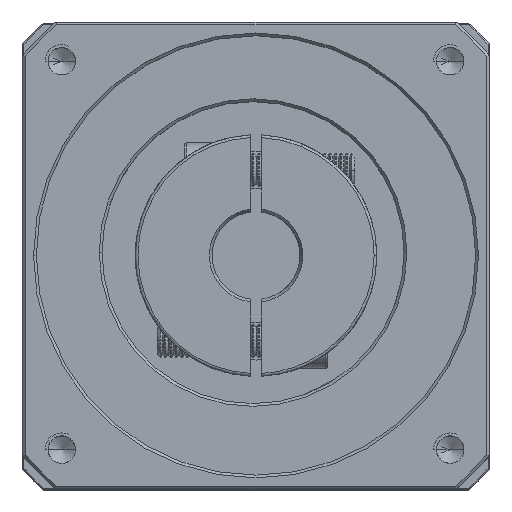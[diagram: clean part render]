
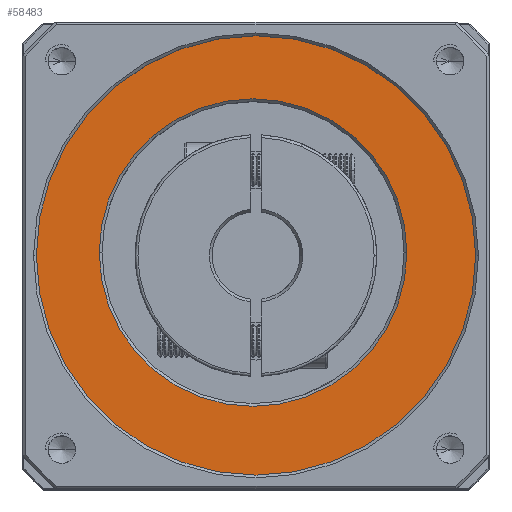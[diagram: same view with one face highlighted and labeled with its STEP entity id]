
A CAD part, top view. The second image highlights one B-rep face of the part: STEP entity #58483.
In plain terms, the highlighted planar face has unit normal (0, 0, 1).
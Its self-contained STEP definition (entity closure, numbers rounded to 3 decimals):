
#5179 = CIRCLE ( 'NONE', #52587, 40. ) ;
#5468 = EDGE_LOOP ( 'NONE', ( #19682, #71364 ) ) ;
#9370 = VERTEX_POINT ( 'NONE', #14910 ) ;
#13965 = CARTESIAN_POINT ( 'NONE',  ( -1.825, 29.885, -1.826 ) ) ;
#14910 = CARTESIAN_POINT ( 'NONE',  ( -81.825, 29.885, -1.826 ) ) ;
#18203 = DIRECTION ( 'NONE',  ( 0., 0., 1. ) ) ;
#18443 = AXIS2_PLACEMENT_3D ( 'NONE', #49530, #88491, #28184 ) ;
#19682 = ORIENTED_EDGE ( 'NONE', *, *, #48405, .T. ) ;
#23917 = DIRECTION ( 'NONE',  ( 0., 0., 1. ) ) ;
#24793 = DIRECTION ( 'NONE',  ( 1., 0., 0. ) ) ;
#28184 = DIRECTION ( 'NONE',  ( 1., 0., 0. ) ) ;
#30366 = ORIENTED_EDGE ( 'NONE', *, *, #86442, .T. ) ;
#30887 = CARTESIAN_POINT ( 'NONE',  ( -41.825, 29.885, -1.826 ) ) ;
#31193 = AXIS2_PLACEMENT_3D ( 'NONE', #30887, #120980, #61025 ) ;
#38718 = AXIS2_PLACEMENT_3D ( 'NONE', #83760, #23917, #93886 ) ;
#41420 = VERTEX_POINT ( 'NONE', #59432 ) ;
#47908 = CARTESIAN_POINT ( 'NONE',  ( -70.367, 30.419, -1.826 ) ) ;
#48405 = EDGE_CURVE ( 'NONE', #99004, #9370, #5179, .T. ) ;
#49530 = CARTESIAN_POINT ( 'NONE',  ( -42.367, 30.419, -1.826 ) ) ;
#51478 = PLANE ( 'NONE',  #38718 ) ;
#52587 = AXIS2_PLACEMENT_3D ( 'NONE', #87716, #18203, #77641 ) ;
#58483 = ADVANCED_FACE ( 'NONE', ( #80843, #85664 ), #51478, .T. ) ;
#59432 = CARTESIAN_POINT ( 'NONE',  ( -14.367, 30.419, -1.826 ) ) ;
#61025 = DIRECTION ( 'NONE',  ( 1., 0., 0. ) ) ;
#71364 = ORIENTED_EDGE ( 'NONE', *, *, #105800, .T. ) ;
#77641 = DIRECTION ( 'NONE',  ( 1., 0., 0. ) ) ;
#79040 = AXIS2_PLACEMENT_3D ( 'NONE', #103083, #124038, #24793 ) ;
#80843 = FACE_OUTER_BOUND ( 'NONE', #5468, .T. ) ;
#83760 = CARTESIAN_POINT ( 'NONE',  ( -41.825, 29.885, -1.826 ) ) ;
#83941 = CIRCLE ( 'NONE', #79040, 28. ) ;
#85664 = FACE_BOUND ( 'NONE', #122087, .T. ) ;
#86442 = EDGE_CURVE ( 'NONE', #120586, #41420, #113124, .T. ) ;
#87716 = CARTESIAN_POINT ( 'NONE',  ( -41.825, 29.885, -1.826 ) ) ;
#88491 = DIRECTION ( 'NONE',  ( 0., 0., -1. ) ) ;
#93886 = DIRECTION ( 'NONE',  ( 1., 0., 0. ) ) ;
#99004 = VERTEX_POINT ( 'NONE', #13965 ) ;
#103083 = CARTESIAN_POINT ( 'NONE',  ( -42.367, 30.419, -1.826 ) ) ;
#105800 = EDGE_CURVE ( 'NONE', #9370, #99004, #129462, .T. ) ;
#110724 = EDGE_CURVE ( 'NONE', #41420, #120586, #83941, .T. ) ;
#113124 = CIRCLE ( 'NONE', #18443, 28. ) ;
#114072 = ORIENTED_EDGE ( 'NONE', *, *, #110724, .T. ) ;
#120586 = VERTEX_POINT ( 'NONE', #47908 ) ;
#120980 = DIRECTION ( 'NONE',  ( 0., 0., 1. ) ) ;
#122087 = EDGE_LOOP ( 'NONE', ( #114072, #30366 ) ) ;
#124038 = DIRECTION ( 'NONE',  ( 0., 0., -1. ) ) ;
#129462 = CIRCLE ( 'NONE', #31193, 40. ) ;
